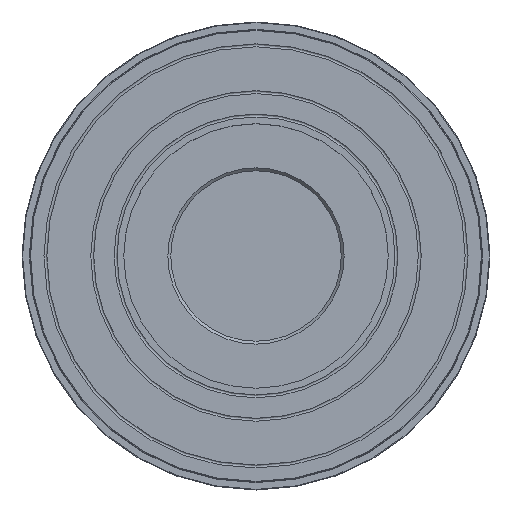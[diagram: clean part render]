
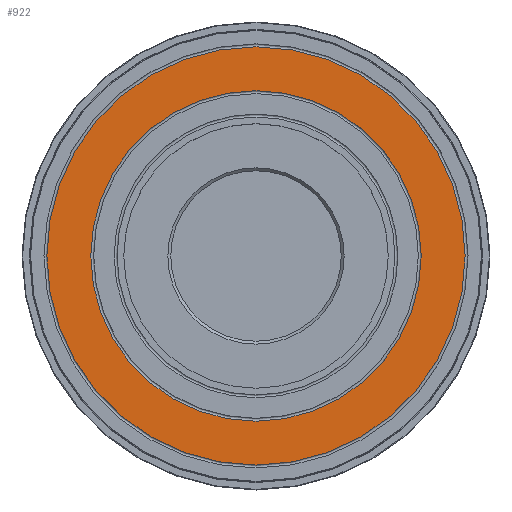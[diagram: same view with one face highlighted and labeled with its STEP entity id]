
A CAD part, top view. The second image highlights one B-rep face of the part: STEP entity #922.
In plain terms, the highlighted planar face has unit normal (0, 0, 1).
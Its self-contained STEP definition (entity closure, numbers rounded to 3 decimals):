
#922=ADVANCED_FACE('',(#1739,#1741),#1743,.T.);
#1739=FACE_BOUND('',#1740,.T.);
#1740=EDGE_LOOP('',(#5017));
#1741=FACE_BOUND('',#1742,.T.);
#1742=EDGE_LOOP('',(#5018));
#1743=PLANE('',#1744);
#1744=AXIS2_PLACEMENT_3D('',#1745,#1746,#1747);
#1745=CARTESIAN_POINT('',(0.,0.,0.));
#1746=DIRECTION('',(0.,0.,1.));
#1747=DIRECTION('',(0.,1.,0.));
#5017=ORIENTED_EDGE('',*,*,#5409,.T.);
#5018=ORIENTED_EDGE('',*,*,#5411,.T.);
#5409=EDGE_CURVE('',#5905,#5905,#5906,.F.);
#5411=EDGE_CURVE('',#5909,#5909,#5910,.T.);
#5905=VERTEX_POINT('',#8531);
#5906=CIRCLE('',#8532,71.95);
#5909=VERTEX_POINT('',#8541);
#5910=CIRCLE('',#8542,56.85);
#8531=CARTESIAN_POINT('',(0.,71.95,0.));
#8532=AXIS2_PLACEMENT_3D('',#8533,#8534,#8535);
#8533=CARTESIAN_POINT('',(0.,0.,0.));
#8534=DIRECTION('',(0.,0.,-1.));
#8535=DIRECTION('',(0.,1.,0.));
#8541=CARTESIAN_POINT('',(0.,56.85,0.));
#8542=AXIS2_PLACEMENT_3D('',#8543,#8544,#8545);
#8543=CARTESIAN_POINT('',(0.,0.,0.));
#8544=DIRECTION('',(0.,0.,-1.));
#8545=DIRECTION('',(0.,1.,0.));
